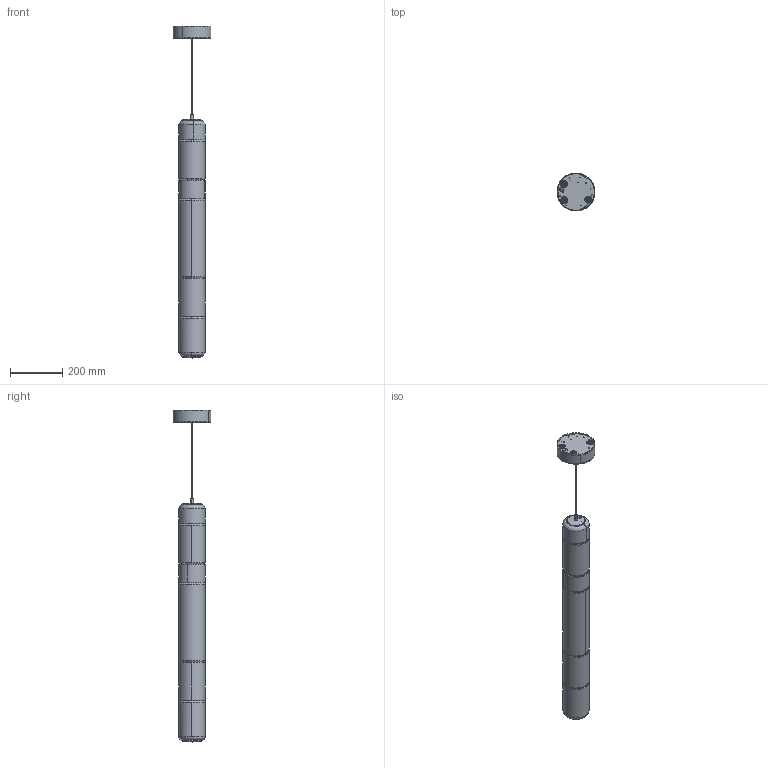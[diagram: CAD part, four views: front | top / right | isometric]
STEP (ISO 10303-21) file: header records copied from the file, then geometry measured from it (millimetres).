
FILE_DESCRIPTION(/* description */ (''),/* implementation_level */ '2;1');
FILE_NAME(/* name */ '00343MP0LD00CEPB - STACKING S 90 V GLASS EMEA',/* time_stamp */ '2023-09-27T17:20:50+02:00',/* author */ (''),/* organization */ (''),/* preprocessor_version */ 'ST-DEVELOPER v16.5',/* originating_system */ 'Rhino 7.27',/* authorisation */ '');
FILE_SCHEMA (('CONFIG_CONTROL_DESIGN'));
Length unit declared in the file: millimetre
Products named in the file (1): Document
Bounding box: 144.93 x 145 x 1267.06 mm (x, y, z)
Volume: 1549582.3 mm3; surface area: 1275148.2 mm2
Topology: 24 solids, 24 shells, 828 faces, 2037 edges, 1323 vertices
Faces by surface type: plane 299, cylinder 293, bspline 236
Entity records: 29726 total; most frequent: CARTESIAN_POINT 16597, ORIENTED_EDGE 4054, EDGE_CURVE 2027, VERTEX_POINT 1323, EDGE_LOOP 1012, ADVANCED_FACE 828, FACE_OUTER_BOUND 828, B_SPLINE_CURVE_WITH_KNOTS 796
